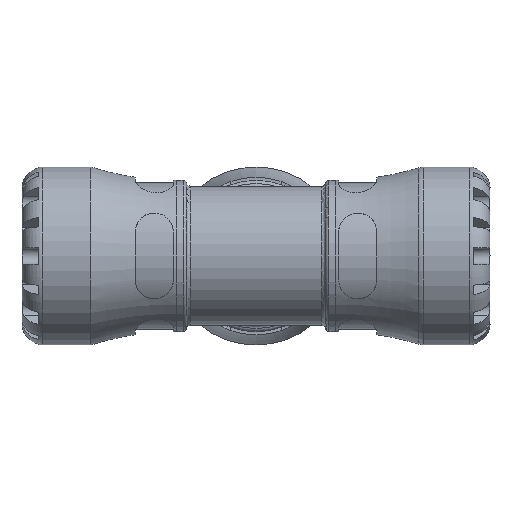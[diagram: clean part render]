
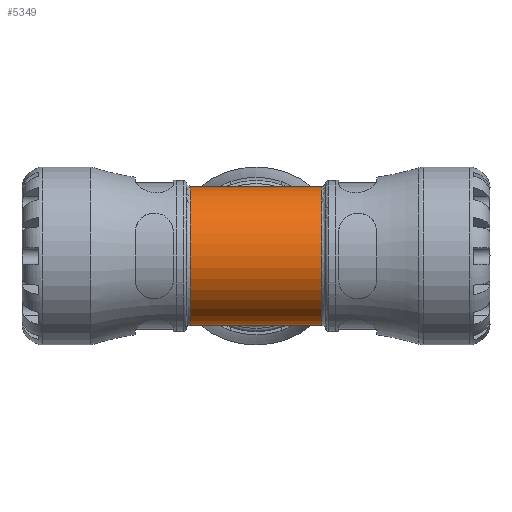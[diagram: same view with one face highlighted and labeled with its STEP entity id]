
A CAD part, front view. The second image highlights one B-rep face of the part: STEP entity #5349.
In plain terms, the highlighted cylindrical face has radius 40.17 mm (diameter 80.34 mm), a partial arc.
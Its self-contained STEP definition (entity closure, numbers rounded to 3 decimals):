
#989=CYLINDRICAL_SURFACE('',#5869,40.17);
#1445=FACE_OUTER_BOUND('',#1755,.T.);
#1755=EDGE_LOOP('',(#4493,#4494,#4495,#4496,#4497,#4498));
#1886=ELLIPSE('',#5491,57.542,40.17);
#1889=ELLIPSE('',#5496,57.542,40.17);
#1891=ELLIPSE('',#5500,57.542,40.17);
#1892=ELLIPSE('',#5502,57.542,40.17);
#1917=CIRCLE('',#5521,40.17);
#2026=CIRCLE('',#5737,40.17);
#2219=VERTEX_POINT('',#7664);
#2220=VERTEX_POINT('',#7666);
#2223=VERTEX_POINT('',#7779);
#2228=VERTEX_POINT('',#7971);
#2230=VERTEX_POINT('',#7974);
#2232=VERTEX_POINT('',#8008);
#2736=EDGE_CURVE('',#2219,#2220,#1886,.T.);
#2743=EDGE_CURVE('',#2220,#2223,#1889,.T.);
#2750=EDGE_CURVE('',#2230,#2228,#1891,.T.);
#2752=EDGE_CURVE('',#2232,#2230,#1892,.T.);
#2776=EDGE_CURVE('',#2228,#2219,#1917,.T.);
#3053=EDGE_CURVE('',#2223,#2232,#2026,.T.);
#4493=ORIENTED_EDGE('',*,*,#2736,.F.);
#4494=ORIENTED_EDGE('',*,*,#2776,.F.);
#4495=ORIENTED_EDGE('',*,*,#2750,.F.);
#4496=ORIENTED_EDGE('',*,*,#2752,.F.);
#4497=ORIENTED_EDGE('',*,*,#3053,.F.);
#4498=ORIENTED_EDGE('',*,*,#2743,.F.);
#5349=ADVANCED_FACE('',(#1445),#989,.T.);
#5491=AXIS2_PLACEMENT_3D('',#7667,#6120,#6121);
#5496=AXIS2_PLACEMENT_3D('',#7783,#6130,#6131);
#5500=AXIS2_PLACEMENT_3D('',#7976,#6138,#6139);
#5502=AXIS2_PLACEMENT_3D('',#8010,#6142,#6143);
#5521=AXIS2_PLACEMENT_3D('',#8428,#6180,#6181);
#5737=AXIS2_PLACEMENT_3D('',#9951,#6705,#6706);
#5869=AXIS2_PLACEMENT_3D('',#10948,#7034,#7035);
#6120=DIRECTION('center_axis',(-0.698,0.716,0.));
#6121=DIRECTION('ref_axis',(0.716,0.698,0.));
#6130=DIRECTION('center_axis',(0.698,0.716,0.));
#6131=DIRECTION('ref_axis',(-0.716,0.698,0.));
#6138=DIRECTION('center_axis',(-0.698,0.716,0.));
#6139=DIRECTION('ref_axis',(0.716,0.698,0.));
#6142=DIRECTION('center_axis',(0.698,0.716,0.));
#6143=DIRECTION('ref_axis',(-0.716,0.698,0.));
#6180=DIRECTION('center_axis',(1.,0.,0.));
#6181=DIRECTION('ref_axis',(0.,1.,0.));
#6705=DIRECTION('center_axis',(-1.,0.,0.));
#6706=DIRECTION('ref_axis',(0.,1.,0.));
#7034=DIRECTION('center_axis',(1.,0.,0.));
#7035=DIRECTION('ref_axis',(0.,-1.,0.));
#7664=CARTESIAN_POINT('',(38.142,37.189,-15.186));
#7666=CARTESIAN_POINT('',(0.,0.,-40.17));
#7667=CARTESIAN_POINT('Origin',(0.,0.,0.));
#7779=CARTESIAN_POINT('',(-38.142,37.189,-15.186));
#7783=CARTESIAN_POINT('Origin',(0.,0.,0.));
#7971=CARTESIAN_POINT('',(38.142,37.189,15.186));
#7974=CARTESIAN_POINT('',(0.,0.,40.17));
#7976=CARTESIAN_POINT('Origin',(0.,0.,0.));
#8008=CARTESIAN_POINT('',(-38.142,37.189,15.186));
#8010=CARTESIAN_POINT('Origin',(0.,0.,0.));
#8428=CARTESIAN_POINT('Origin',(38.142,0.,0.));
#9951=CARTESIAN_POINT('Origin',(-38.142,0.,0.));
#10948=CARTESIAN_POINT('Origin',(20.085,0.,0.));
